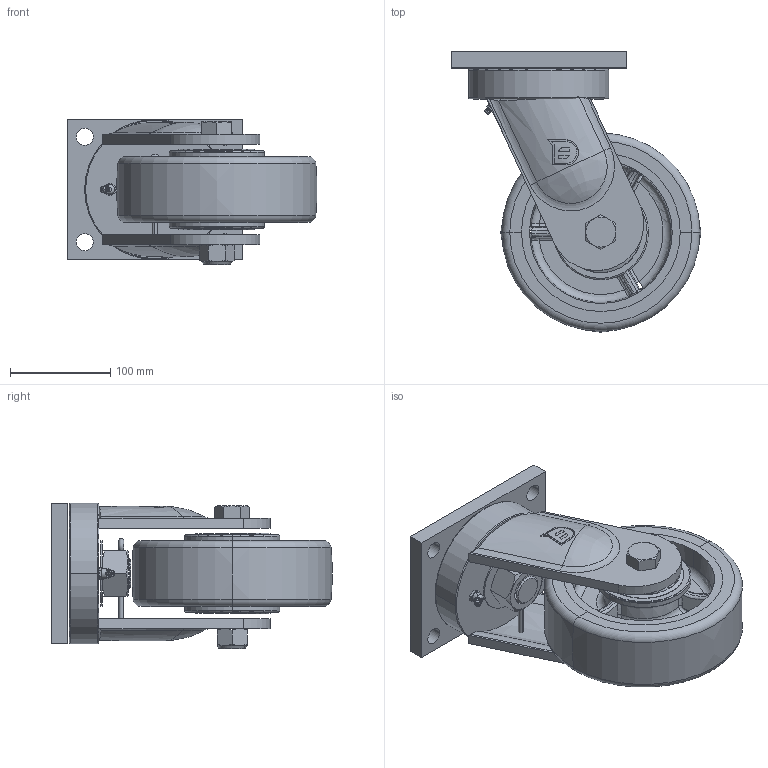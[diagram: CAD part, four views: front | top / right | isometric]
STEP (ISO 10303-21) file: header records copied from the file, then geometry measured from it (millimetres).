
FILE_DESCRIPTION((''),'2;1');
FILE_NAME('PRT0003','2025-08-26T14:08:12',('Administrator'),(''),'CREO PARAMETRIC BY PTC INC, 2022124','CREO PARAMETRIC BY PTC INC, 2022124','');
FILE_SCHEMA(('AUTOMOTIVE_DESIGN { 1 0 10303 214 1 1 1 1 }'));
Length unit declared in the file: millimetre
Products named in the file (1): PRT0003
Bounding box: 249.37 x 279.87 x 145 mm (x, y, z)
Surface area: 306532.5 mm2 (no closed solid volume)
Topology: 0 solids, 26 shells, 317 faces, 885 edges, 578 vertices
Faces by surface type: bspline 103, plane 86, cone 49, cylinder 44, torus 35
Entity records: 20275 total; most frequent: CARTESIAN_POINT 10799, ORIENTED_EDGE 1488, DIRECTION 1301, EDGE_CURVE 885, VERTEX_POINT 578, AXIS2_PLACEMENT_3D 556, B_SPLINE_CURVE_WITH_KNOTS 367, EDGE_LOOP 349
